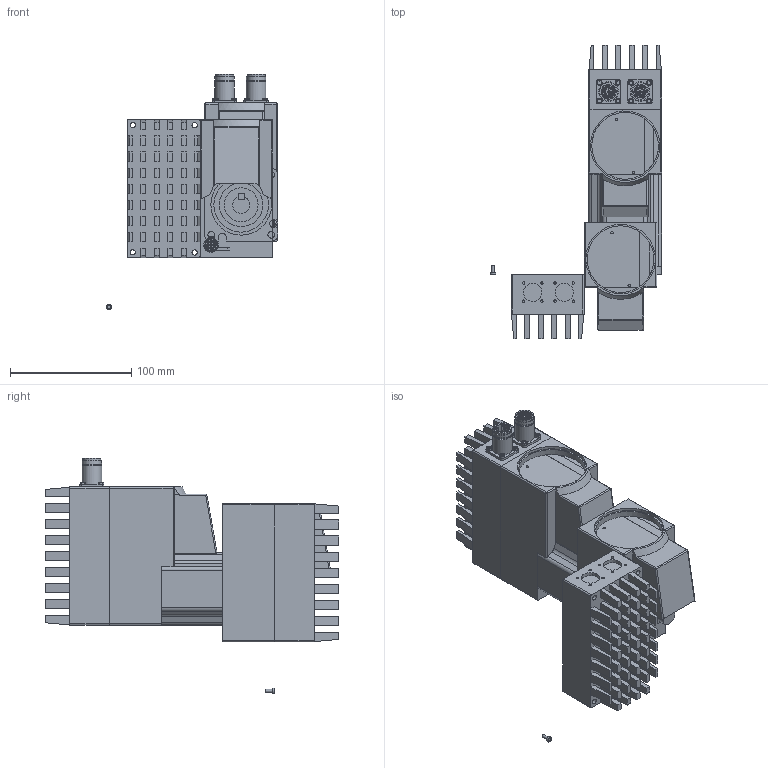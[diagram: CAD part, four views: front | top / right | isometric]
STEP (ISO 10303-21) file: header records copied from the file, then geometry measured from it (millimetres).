
FILE_DESCRIPTION( ( 'Unknown' ), '1' );
FILE_NAME( 'K:/JVL/MACxxx/MAC400/Mekanik/CAD Download tegninger MAC400/MAC400-D1/MAC400-D1.stp', 'Unknown', ( 'Unknown' ), ( 'Unknown' ), 'PSStep 10.1', 'Unknown', ' ' );
FILE_SCHEMA( ( 'AUTOMOTIVE_DESIGN { 1 0 10303 214 1 1 1 1 }' ) );
Length unit declared in the file: millimetre
Products named in the file (11): Assem1; D2 motor; MAC400 House; MAC400 Køleplade; Stik house; Key f motor; Male house; female house; Female; male; M2,5x6 torx
Bounding box: 141.08 x 242.22 x 193.83 mm (x, y, z)
Volume: 1857842.9 mm3; surface area: 260059 mm2
Topology: 34 solids, 34 shells, 1603 faces, 3928 edges, 2623 vertices
Faces by surface type: plane 1069, cylinder 486, cone 18, bspline 16, torus 10, sphere 4
Full cylindrical faces by diameter (mm): 0.9 x8, 1 x8, 1.6 x23, 1.65 x5, 1.7 x8, 1.8 x4, 2 x10, 2.013 x20, 2.5 x9, 2.6 x17, 2.64 x5, 2.8 x10, 3.242 x4, 4.3 x8, 4.4 x9, 5.5 x16, 8.5 x2, 10 x4, 12 x2, 12.5 x3, 12.7 x4, 12.8 x4, 13.7 x4, 14 x2, 14.9 x6, 15 x2, 15.5 x3, 16 x3, 16.2 x3, 17 x3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
Entity records: 26326 total; most frequent: CARTESIAN_POINT 4054, DIRECTION 3378, ORIENTED_EDGE 3204, EDGE_CURVE 1602, LINE 1128, VECTOR 1128, AXIS2_PLACEMENT_3D 1125, VERTEX_POINT 1117
